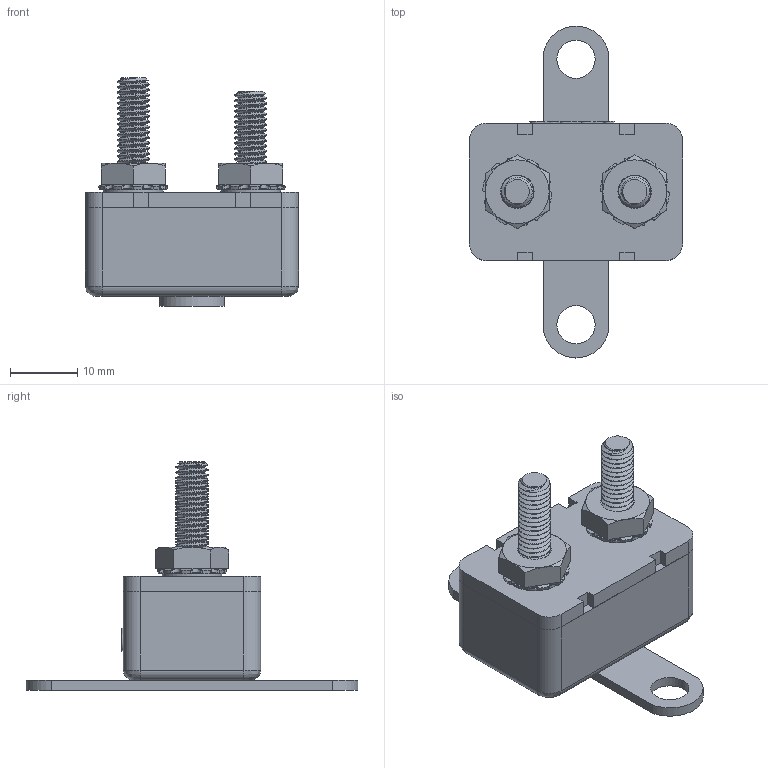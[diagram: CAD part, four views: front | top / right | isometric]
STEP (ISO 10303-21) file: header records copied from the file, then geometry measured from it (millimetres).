
FILE_DESCRIPTION(/* description */ (''),/* implementation_level */ '2;1');
FILE_NAME(/* name */ 'C:\Users\Hani\Desktop\work\ACB-12-H\ACB-12-H.stp',/* time_stamp */ '2021-08-06T13:35:57-07:00',/* author */ ('Hani'),/* organization */ (''),/* preprocessor_version */ 'ST-DEVELOPER v17',/* originating_system */ 'Autodesk Inventor 2019',/* authorisation */ '');
FILE_SCHEMA (('AUTOMOTIVE_DESIGN { 1 0 10303 214 3 1 1 }'));
Length unit declared in the file: inch
Products named in the file (4): ACBP-V; ACBP-V_1; THREADED ROD; HEX NUT WITH TOOTH WASHER
Assembly tree (5 placements, depth 2):
  ACBP-V
    ACBP-V_1
    THREADED ROD  x2
    HEX NUT WITH TOOTH WASHER  x2
Bounding box: 31.8 x 49.53 x 34.16 mm (x, y, z)
Volume: 11644.3 mm3; surface area: 6747.6 mm2
Topology: 8 solids, 8 shells, 456 faces, 1260 edges, 836 vertices
Faces by surface type: cylinder 160, plane 131, bspline 119, cone 46
Full cylindrical faces by diameter (mm): 3.795 x46, 3.967 x6, 4.826 x52, 5.7 x2, 6.413 x2, 8.89 x2
Entity records: 16449 total; most frequent: CARTESIAN_POINT 8721, ORIENTED_EDGE 1776, DIRECTION 1170, EDGE_CURVE 888, VERTEX_POINT 588, LINE 418, VECTOR 418, AXIS2_PLACEMENT_3D 376
